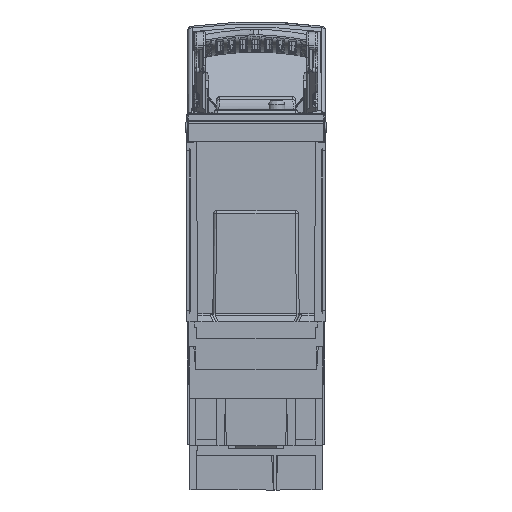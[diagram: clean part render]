
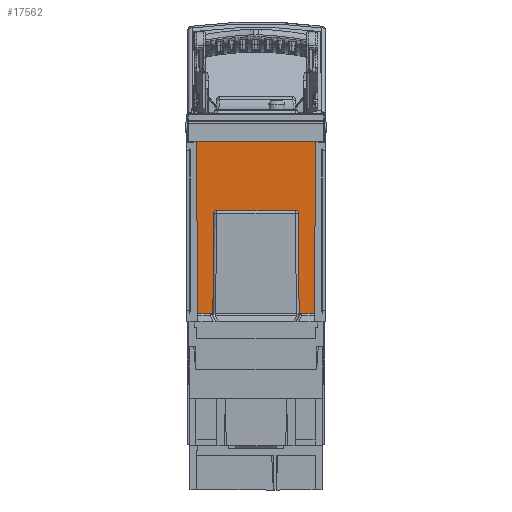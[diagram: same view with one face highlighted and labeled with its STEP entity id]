
A CAD part, left-side view. The second image highlights one B-rep face of the part: STEP entity #17562.
In plain terms, the highlighted planar face has unit normal (-1, 0, 0).
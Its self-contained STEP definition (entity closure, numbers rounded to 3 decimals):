
#12843=CIRCLE('',#138112,1.);
#12844=CIRCLE('',#138113,1.);
#17562=ADVANCED_FACE('',(#28291),#25659,.T.);
#25659=PLANE('',#138114);
#28291=FACE_OUTER_BOUND('',#36357,.T.);
#36357=EDGE_LOOP('',(#46868,#46869,#46870,#46871,#46872,#46873,#46874,#46875,
#46876,#46877));
#46868=ORIENTED_EDGE('',*,*,#100518,.T.);
#46869=ORIENTED_EDGE('',*,*,#100517,.T.);
#46870=ORIENTED_EDGE('',*,*,#100519,.F.);
#46871=ORIENTED_EDGE('',*,*,#100520,.T.);
#46872=ORIENTED_EDGE('',*,*,#100521,.T.);
#46873=ORIENTED_EDGE('',*,*,#100522,.T.);
#46874=ORIENTED_EDGE('',*,*,#100523,.T.);
#46875=ORIENTED_EDGE('',*,*,#100524,.T.);
#46876=ORIENTED_EDGE('',*,*,#100525,.T.);
#46877=ORIENTED_EDGE('',*,*,#100526,.T.);
#87765=VERTEX_POINT('',#188202);
#87769=VERTEX_POINT('',#188214);
#87770=VERTEX_POINT('',#188218);
#87771=VERTEX_POINT('',#188220);
#87772=VERTEX_POINT('',#188222);
#87773=VERTEX_POINT('',#188224);
#87774=VERTEX_POINT('',#188226);
#87775=VERTEX_POINT('',#188228);
#87776=VERTEX_POINT('',#188230);
#87777=VERTEX_POINT('',#188232);
#100517=EDGE_CURVE('',#87765,#87769,#120441,.T.);
#100518=EDGE_CURVE('',#87770,#87765,#120442,.T.);
#100519=EDGE_CURVE('',#87771,#87769,#120443,.T.);
#100520=EDGE_CURVE('',#87771,#87772,#120444,.T.);
#100521=EDGE_CURVE('',#87772,#87773,#120445,.T.);
#100522=EDGE_CURVE('',#87773,#87774,#120446,.T.);
#100523=EDGE_CURVE('',#87774,#87775,#12843,.T.);
#100524=EDGE_CURVE('',#87775,#87776,#120447,.T.);
#100525=EDGE_CURVE('',#87776,#87777,#12844,.T.);
#100526=EDGE_CURVE('',#87777,#87770,#120448,.T.);
#120441=LINE('',#188215,#129198);
#120442=LINE('',#188217,#129199);
#120443=LINE('',#188219,#129200);
#120444=LINE('',#188221,#129201);
#120445=LINE('',#188223,#129202);
#120446=LINE('',#188225,#129203);
#120447=LINE('',#188229,#129204);
#120448=LINE('',#188233,#129205);
#129198=VECTOR('',#150481,1.);
#129199=VECTOR('',#150484,1.);
#129200=VECTOR('',#150485,1.);
#129201=VECTOR('',#150486,1.);
#129202=VECTOR('',#150487,1.);
#129203=VECTOR('',#150488,1.);
#129204=VECTOR('',#150491,1.);
#129205=VECTOR('',#150494,1.);
#138112=AXIS2_PLACEMENT_3D('',#188227,#150489,#150490);
#138113=AXIS2_PLACEMENT_3D('',#188231,#150492,#150493);
#138114=AXIS2_PLACEMENT_3D('',#188234,#150495,#150496);
#150481=DIRECTION('',(0.,-0.009,1.));
#150484=DIRECTION('',(0.,-1.,0.));
#150485=DIRECTION('',(0.,-1.,0.));
#150486=DIRECTION('',(0.,-0.009,-1.));
#150487=DIRECTION('',(0.,-1.,0.));
#150488=DIRECTION('',(0.,-0.009,1.));
#150489=DIRECTION('',(1.,0.,0.));
#150490=DIRECTION('',(0.,0.,-1.));
#150491=DIRECTION('',(0.,-1.,0.));
#150492=DIRECTION('',(1.,0.,0.));
#150493=DIRECTION('',(0.,0.,1.));
#150494=DIRECTION('',(0.,-0.009,-1.));
#150495=DIRECTION('',(-1.,0.,0.));
#150496=DIRECTION('',(0.,0.,1.));
#188202=CARTESIAN_POINT('',(-246.381,-20.95,44.5));
#188214=CARTESIAN_POINT('',(-246.381,-21.491,106.5));
#188215=CARTESIAN_POINT('',(-246.381,-20.687,14.319));
#188217=CARTESIAN_POINT('',(-246.381,24.058,44.5));
#188218=CARTESIAN_POINT('',(-246.381,-15.513,44.5));
#188219=CARTESIAN_POINT('',(-246.381,26.515,106.5));
#188220=CARTESIAN_POINT('',(-246.381,21.474,106.5));
#188221=CARTESIAN_POINT('',(-246.381,21.474,106.5));
#188222=CARTESIAN_POINT('',(-246.381,20.933,44.5));
#188223=CARTESIAN_POINT('',(-246.381,24.058,44.5));
#188224=CARTESIAN_POINT('',(-246.381,15.513,44.5));
#188225=CARTESIAN_POINT('',(-246.381,15.513,44.5));
#188226=CARTESIAN_POINT('',(-246.381,15.199,80.509));
#188227=CARTESIAN_POINT('',(-246.381,14.199,80.5));
#188228=CARTESIAN_POINT('',(-246.381,14.199,81.5));
#188229=CARTESIAN_POINT('',(-246.381,24.058,81.5));
#188230=CARTESIAN_POINT('',(-246.381,-14.199,81.5));
#188231=CARTESIAN_POINT('',(-246.381,-14.199,80.5));
#188232=CARTESIAN_POINT('',(-246.381,-15.199,80.509));
#188233=CARTESIAN_POINT('',(-246.381,-15.199,80.509));
#188234=CARTESIAN_POINT('',(-246.381,24.058,14.));
